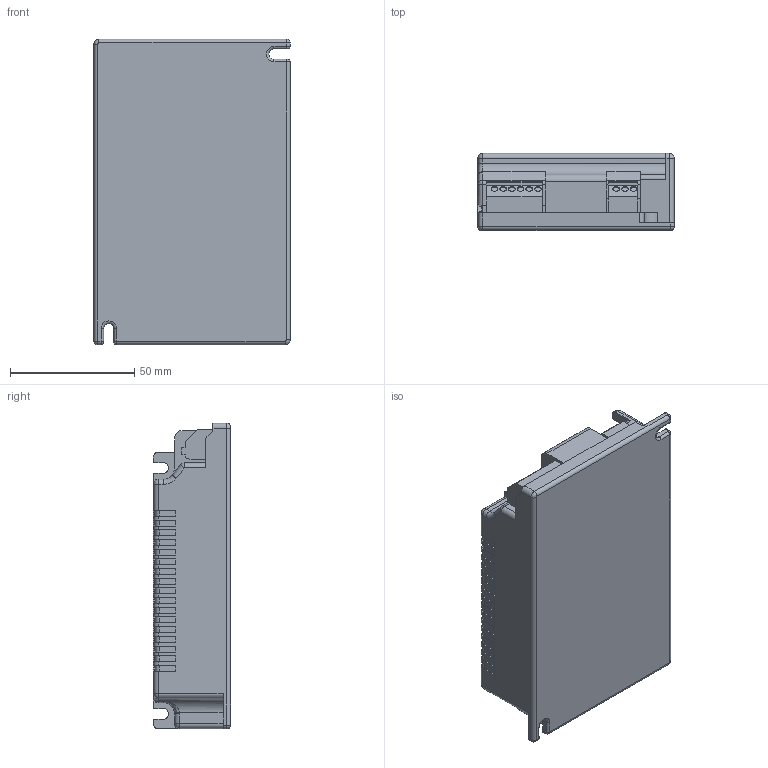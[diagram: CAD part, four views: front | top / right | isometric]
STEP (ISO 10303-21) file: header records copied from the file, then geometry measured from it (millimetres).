
FILE_DESCRIPTION((''),'2;1');
FILE_NAME('15006768Z','2011-11-15T',('juergen.hrach'),(''),'PRO/ENGINEER BY PARAMETRIC TECHNOLOGY CORPORATION, 2010480','PRO/ENGINEER BY PARAMETRIC TECHNOLOGY CORPORATION, 2010480','');
FILE_SCHEMA(('AUTOMOTIVE_DESIGN { 1 2 10303 214 0 1 1 1 }'));
Length unit declared in the file: millimetre
Products named in the file (1): 15006768Z
Bounding box: 79 x 31 x 123 mm (x, y, z)
Volume: 265677.9 mm3; surface area: 32562.9 mm2
Topology: 1 solids, 3 shells, 548 faces, 1512 edges, 991 vertices
Faces by surface type: plane 263, cylinder 179, extrusion 85, sphere 9, bspline 7, torus 5
Entity records: 26593 total; most frequent: CARTESIAN_POINT 4120, ORIENTED_EDGE 3024, DIRECTION 2705, PRESENTATION_STYLE_ASSIGNMENT 1835, STYLED_ITEM 1514, CURVE_STYLE 1512, EDGE_CURVE 1512, VECTOR 1051
